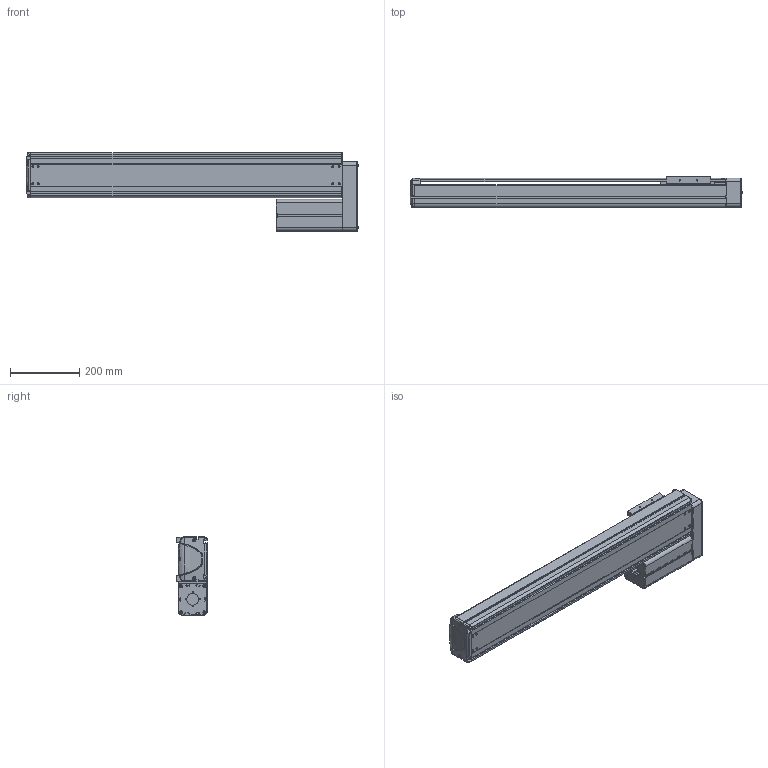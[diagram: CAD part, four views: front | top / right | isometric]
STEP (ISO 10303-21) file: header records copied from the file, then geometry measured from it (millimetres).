
FILE_DESCRIPTION((''),'2;1');
FILE_NAME('BE30E-UL-M_B-70_IGS_PRT','2017-06-17T',(' '),(''),'PRO/ENGINEER BY PARAMETRIC TECHNOLOGY CORPORATION, 2015030','PRO/ENGINEER BY PARAMETRIC TECHNOLOGY CORPORATION, 2015030','');
FILE_SCHEMA(('CONFIG_CONTROL_DESIGN'));
Products named in the file (1): BE30E-UL-M_B-70_IGS_PRT
Bounding box: 961.9 x 89.8 x 227 mm (x, y, z)
Volume: 3269213.4 mm3; surface area: 1442811.5 mm2
Topology: 2 solids, 120 shells, 2010 faces, 5402 edges, 3510 vertices
Faces by surface type: plane 986, cylinder 831, cone 103, torus 38, bspline 28, sphere 24
Entity records: 64934 total; most frequent: CARTESIAN_POINT 13707, DIRECTION 10833, ORIENTED_EDGE 10283, EDGE_CURVE 5364, AXIS2_PLACEMENT_3D 3815, VERTEX_POINT 3510, VECTOR 3203, LINE 3203
